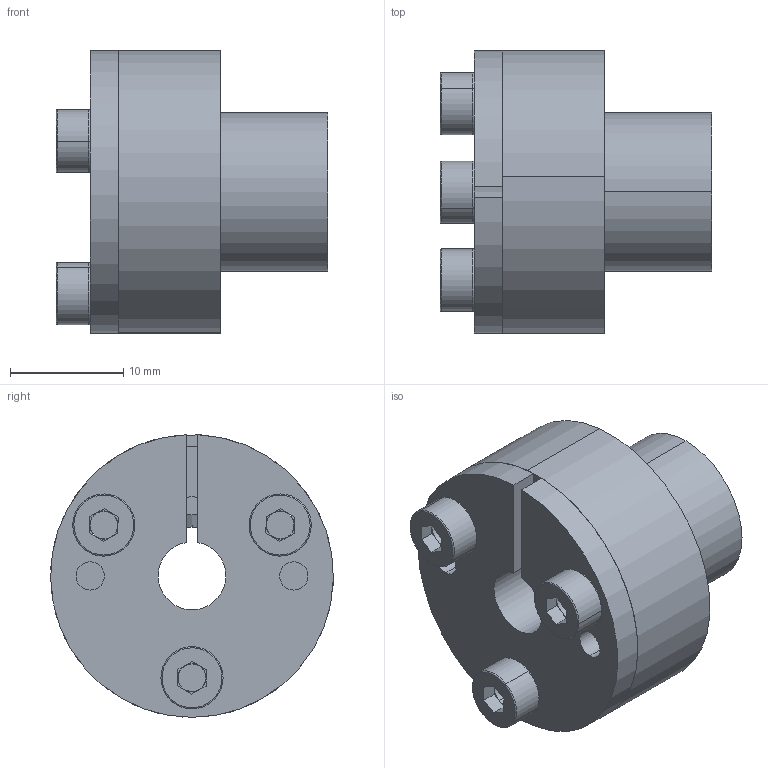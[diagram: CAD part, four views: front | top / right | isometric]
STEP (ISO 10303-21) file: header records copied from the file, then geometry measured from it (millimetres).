
FILE_DESCRIPTION (( 'STEP AP203' ), '1' );
FILE_NAME ('T-06-14.STEP', '2017-10-12T07:40:25', ( 'MYCOM' ), ( '' ), 'SwSTEP 2.0', 'SolidWorks 2015', '' );
FILE_SCHEMA (( 'CONFIG_CONTROL_DESIGN' ));
Length unit declared in the file: millimetre
Products named in the file (1): T-06-14
Bounding box: 24.02 x 25 x 24.99 mm (x, y, z)
Surface area: 5813.4 mm2 (no closed solid volume)
Topology: 0 solids, 9 shells, 106 faces, 268 edges, 172 vertices
Faces by surface type: plane 53, cylinder 37, torus 12, cone 4
Entity records: 3293 total; most frequent: DIRECTION 612, CARTESIAN_POINT 565, ORIENTED_EDGE 488, EDGE_CURVE 268, AXIS2_PLACEMENT_3D 241, VERTEX_POINT 172, CIRCLE 134, VECTOR 130
